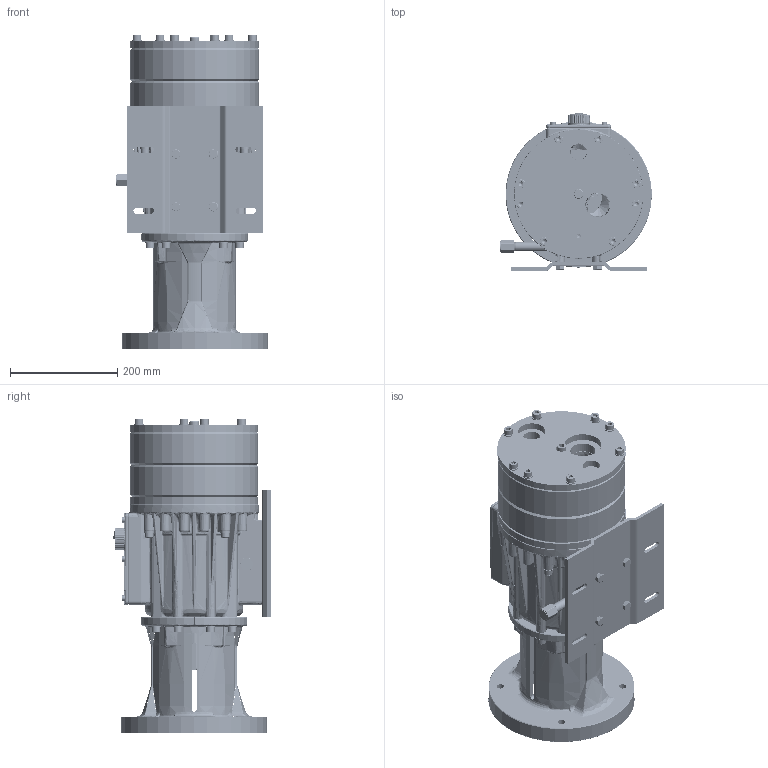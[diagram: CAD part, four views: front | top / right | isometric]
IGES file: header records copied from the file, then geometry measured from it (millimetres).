
Start section: SolidWorks IGES file using analytic representation for surfaces
Global section: file name: Q:\ENG\!!Gary\Outline-Dwgs\Latest-Pump-etc-OD\H25-P-1202-OD.IGS; native system: SolidWorks 2007; preprocessor: SolidWorks 2007; author: garyi; date: 081104.152908; units: inch
Bounding box: 283.06 x 293.87 x 587.59 mm (x, y, z)
Surface area: 1941958.7 mm2 (no closed solid volume)
Topology: 0 solids, 0 shells, 10302 faces, 117348 edges, 117281 vertices
Faces by surface type: revolution 6023, bspline 4279
